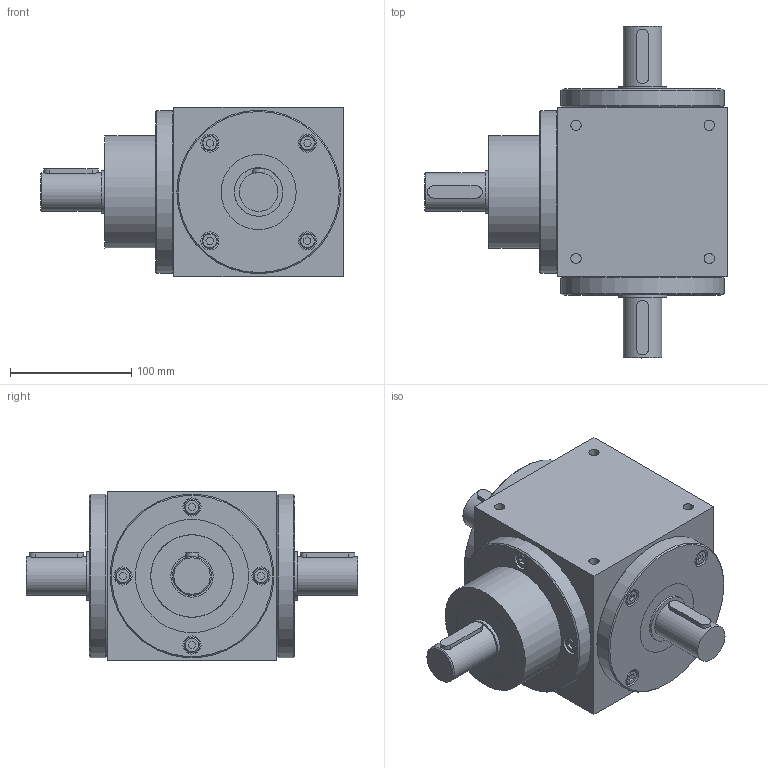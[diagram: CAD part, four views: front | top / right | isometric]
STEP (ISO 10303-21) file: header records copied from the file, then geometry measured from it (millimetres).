
FILE_DESCRIPTION(('STEP AP203'),'1');
FILE_NAME('SMB140.stp','2022-07-27T10:10:39',(' '),(' '),'Spatial InterOp 3D',' ',' ');
FILE_SCHEMA(('CONFIG_CONTROL_DESIGN'));
Length unit declared in the file: millimetre
Products named in the file (19): SMB140; HOUSING; INPUT COVER; BEARING COVER; INPUT SHAFT; SHAFT; KEY; OILSEAL; BOLT; 스크루 : Socket - M8.0 x 20.0
Assembly tree (25 placements, depth 3):
  SMB140
    HOUSING
    INPUT COVER
    BEARING COVER
    BEARING COVER
    INPUT SHAFT
    SHAFT
    KEY
    KEY
    KEY
    OILSEAL
    OILSEAL
    OILSEAL
    BOLT
      스크루 : Socket - M8.0 x 20.0  x8
      스크루 : Socket - M8.0 x 20.0
      스크루 : Socket - M8.0 x 20.0
      스크루 : Socket - M8.0 x 20.0
      스크루 : Socket - M8.0 x 20.0
Bounding box: 250 x 274 x 140 mm (x, y, z)
Volume: 1411733.5 mm3; surface area: 422257.7 mm2
Topology: 23 solids, 24 shells, 343 faces, 668 edges, 444 vertices
Faces by surface type: plane 211, cylinder 100, cone 32
Full cylindrical faces by diameter (mm): 6.75 x12, 8.5 x8, 9 x12, 12.85 x12, 15 x12, 32 x3, 35 x2, 40 x5, 48 x1, 60 x1, 62 x4, 68 x3, 80 x2, 93.5 x1, 96 x1, 100 x5, 135 x3
Entity records: 7265 total; most frequent: CARTESIAN_POINT 1399, DIRECTION 1104, ORIENTED_EDGE 726, AXIS2_PLACEMENT_3D 477, EDGE_LOOP 450, EDGE_CURVE 363, FACE_OUTER_BOUND 331, VERTEX_POINT 303
